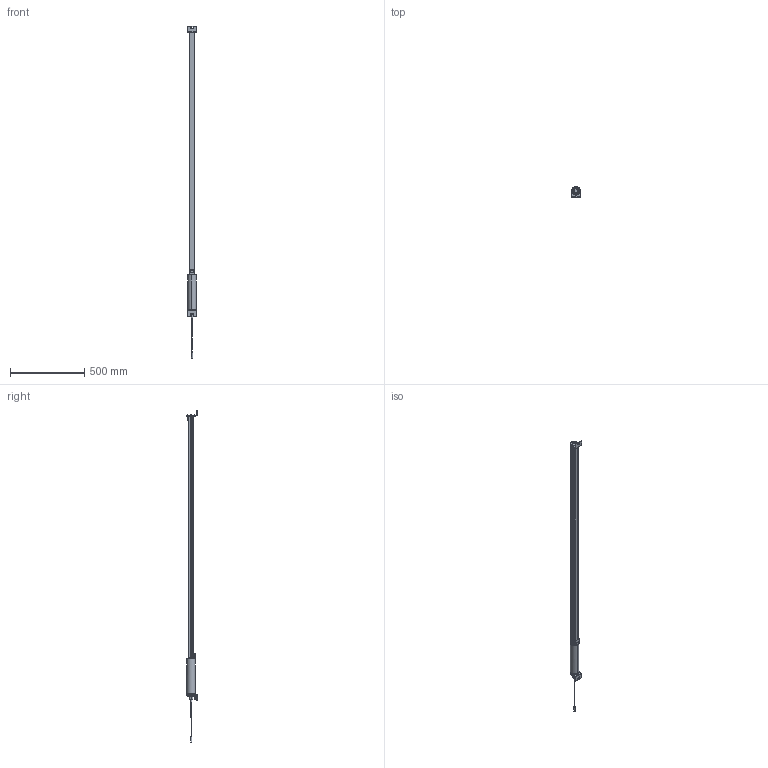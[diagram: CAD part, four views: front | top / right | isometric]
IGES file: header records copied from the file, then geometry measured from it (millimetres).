
Global section: file name: C:\ACADFILES\SS_PYLONS\CUSTOMER_FILES\SS-72-PYLON_3D_SMB.igs; native system: AutoCAD-18.2s (LMS Tech) (Microsoft Windows NT Version 6.1 (x86)); preprocessor: Autodesk IGES Translator Mechanical Desktop 2011 (Feb 18 2011) from Autodesk, Inc.; date: 20140326.141256; units: inch
Bounding box: 57.29 x 69.85 x 2235.57 mm (x, y, z)
Surface area: 857034.2 mm2 (no closed solid volume)
Topology: 0 solids, 0 shells, 1800 faces, 9329 edges, 9504 vertices
Faces by surface type: bspline 1800
